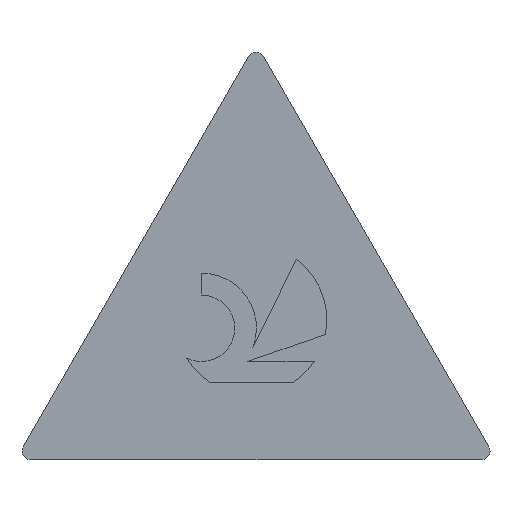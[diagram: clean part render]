
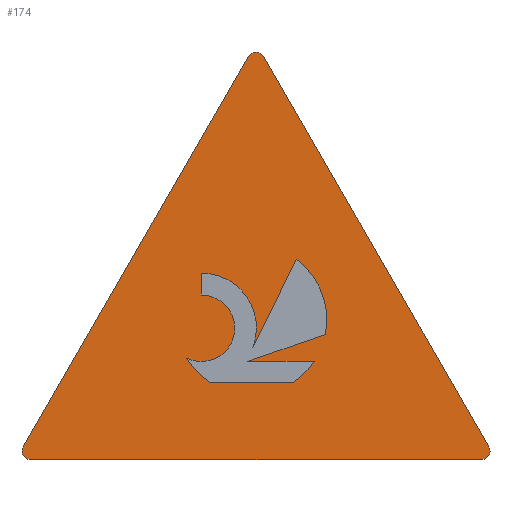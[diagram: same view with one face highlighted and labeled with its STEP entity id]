
A CAD part, top view. The second image highlights one B-rep face of the part: STEP entity #174.
In plain terms, the highlighted planar face has unit normal (0, 0, 1).
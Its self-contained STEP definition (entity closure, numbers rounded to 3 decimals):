
#146=EDGE_CURVE('',#218,#154,#387,.T.);
#154=VERTEX_POINT('',#395);
#164=EDGE_CURVE('',#252,#206,#406,.T.);
#168=EDGE_CURVE('',#316,#338,#411,.T.);
#174=ADVANCED_FACE('',(#417,#418),#419,.T.);
#178=VERTEX_POINT('',#423);
#180=EDGE_CURVE('',#178,#312,#425,.T.);
#184=EDGE_CURVE('',#314,#274,#430,.T.);
#186=EDGE_CURVE('',#210,#222,#432,.T.);
#200=EDGE_CURVE('',#154,#346,#447,.T.);
#204=EDGE_CURVE('',#222,#304,#452,.T.);
#206=VERTEX_POINT('',#454);
#210=VERTEX_POINT('',#458);
#212=EDGE_CURVE('',#278,#314,#460,.T.);
#216=EDGE_CURVE('',#274,#178,#465,.T.);
#218=VERTEX_POINT('',#467);
#222=VERTEX_POINT('',#471);
#228=EDGE_CURVE('',#206,#278,#477,.T.);
#236=EDGE_CURVE('',#338,#218,#488,.T.);
#252=VERTEX_POINT('',#505);
#274=VERTEX_POINT('',#528);
#278=VERTEX_POINT('',#532);
#282=EDGE_CURVE('',#312,#210,#537,.T.);
#288=EDGE_CURVE('',#304,#302,#544,.T.);
#298=VERTEX_POINT('',#555);
#302=VERTEX_POINT('',#559);
#304=VERTEX_POINT('',#561);
#306=EDGE_CURVE('',#346,#298,#563,.T.);
#312=VERTEX_POINT('',#569);
#314=VERTEX_POINT('',#571);
#316=VERTEX_POINT('',#573);
#318=EDGE_CURVE('',#298,#316,#575,.T.);
#326=EDGE_CURVE('',#302,#252,#583,.T.);
#338=VERTEX_POINT('',#597);
#346=VERTEX_POINT('',#607);
#387=LINE('',#648,#649);
#395=CARTESIAN_POINT('',(10.652,0.0,0.0));
#406=LINE('',#675,#676);
#411=LINE('',#682,#683);
#417=FACE_BOUND('',#693,.T.);
#418=FACE_OUTER_BOUND('',#694,.T.);
#419=PLANE('',#695);
#423=CARTESIAN_POINT('',(6.336,1.76,0.0));
#425=LINE('',#704,#705);
#430=LINE('',#711,#712);
#432=CIRCLE('',#715,0.761);
#447=CIRCLE('',#738,0.2);
#452=CIRCLE('',#744,0.761);
#454=CARTESIAN_POINT('',(6.422,4.59,0.0));
#458=CARTESIAN_POINT('',(3.912,2.329,0.0));
#460=LINE('',#755,#756);
#465=CIRCLE('',#762,1.724);
#467=CARTESIAN_POINT('',(0.346,0.0,0.0));
#471=CARTESIAN_POINT('',(4.593,3.69,0.0));
#477=CIRCLE('',#778,1.724);
#488=CIRCLE('',#790,0.2);
#505=CARTESIAN_POINT('',(5.426,2.568,0.0));
#528=CARTESIAN_POINT('',(6.831,2.25,0.0));
#532=CARTESIAN_POINT('',(7.087,2.868,0.0));
#537=CIRCLE('',#857,1.724);
#544=LINE('',#865,#866);
#555=CARTESIAN_POINT('',(5.672,9.225,0.0));
#559=CARTESIAN_POINT('',(4.247,4.27,0.0));
#561=CARTESIAN_POINT('',(4.247,3.77,0.0));
#563=LINE('',#891,#892);
#569=CARTESIAN_POINT('',(4.457,1.76,0.0));
#571=CARTESIAN_POINT('',(5.309,2.25,0.0));
#573=CARTESIAN_POINT('',(5.326,9.225,0.0));
#575=CIRCLE('',#907,0.2);
#583=CIRCLE('',#920,1.252);
#597=CARTESIAN_POINT('',(0.173,0.3,0.0));
#607=CARTESIAN_POINT('',(10.825,0.3,0.0));
#648=CARTESIAN_POINT('',(0.346,0.0,0.0));
#649=VECTOR('',#981,1.0);
#675=CARTESIAN_POINT('',(6.051,3.838,0.0));
#676=VECTOR('',#992,1.0);
#682=CARTESIAN_POINT('',(5.326,9.225,0.0));
#683=VECTOR('',#1000,1.0);
#693=EDGE_LOOP('',(#1004,#1005,#1006,#1007,#1008,#1009,#1010,#1011,#1012,#1013,#1014));
#694=EDGE_LOOP('',(#1015,#1016,#1017,#1018,#1019,#1020));
#695=AXIS2_PLACEMENT_3D('',#1021,#1022,#1023);
#704=CARTESIAN_POINT('',(4.978,1.76,0.0));
#705=VECTOR('',#1025,1.0);
#711=CARTESIAN_POINT('',(6.165,2.25,0.0));
#712=VECTOR('',#1034,1.0);
#715=AXIS2_PLACEMENT_3D('',#1035,#1036,#1037);
#738=AXIS2_PLACEMENT_3D('',#1052,#1053,#1054);
#744=AXIS2_PLACEMENT_3D('',#1063,#1064,#1065);
#755=CARTESIAN_POINT('',(5.537,2.33,0.0));
#756=VECTOR('',#1067,1.0);
#762=AXIS2_PLACEMENT_3D('',#1076,#1077,#1078);
#778=AXIS2_PLACEMENT_3D('',#1082,#1083,#1084);
#790=AXIS2_PLACEMENT_3D('',#1115,#1116,#1117);
#857=AXIS2_PLACEMENT_3D('',#1157,#1158,#1159);
#865=CARTESIAN_POINT('',(4.247,3.723,0.0));
#866=VECTOR('',#1168,1.0);
#891=CARTESIAN_POINT('',(10.825,0.3,0.0));
#892=VECTOR('',#1182,1.0);
#907=AXIS2_PLACEMENT_3D('',#1184,#1185,#1186);
#920=AXIS2_PLACEMENT_3D('',#1189,#1190,#1191);
#981=DIRECTION('',(1.0,0.0,0.0));
#992=DIRECTION('',(0.442,0.897,-0.0));
#1000=DIRECTION('',(-0.5,-0.866,0.0));
#1004=ORIENTED_EDGE('',*,*,#288,.T.);
#1005=ORIENTED_EDGE('',*,*,#326,.T.);
#1006=ORIENTED_EDGE('',*,*,#164,.T.);
#1007=ORIENTED_EDGE('',*,*,#228,.T.);
#1008=ORIENTED_EDGE('',*,*,#212,.T.);
#1009=ORIENTED_EDGE('',*,*,#184,.T.);
#1010=ORIENTED_EDGE('',*,*,#216,.T.);
#1011=ORIENTED_EDGE('',*,*,#180,.T.);
#1012=ORIENTED_EDGE('',*,*,#282,.T.);
#1013=ORIENTED_EDGE('',*,*,#186,.T.);
#1014=ORIENTED_EDGE('',*,*,#204,.T.);
#1015=ORIENTED_EDGE('',*,*,#146,.T.);
#1016=ORIENTED_EDGE('',*,*,#200,.T.);
#1017=ORIENTED_EDGE('',*,*,#306,.T.);
#1018=ORIENTED_EDGE('',*,*,#318,.T.);
#1019=ORIENTED_EDGE('',*,*,#168,.T.);
#1020=ORIENTED_EDGE('',*,*,#236,.T.);
#1021=CARTESIAN_POINT('',(5.499,3.175,0.0));
#1022=DIRECTION('',(0.0,0.0,1.0));
#1023=DIRECTION('',(1.0,0.0,0.0));
#1025=DIRECTION('',(-1.0,0.0,0.0));
#1034=DIRECTION('',(1.0,0.0,0.0));
#1035=CARTESIAN_POINT('',(4.252,3.009,0.0));
#1036=DIRECTION('',(0.0,0.0,1.0));
#1037=DIRECTION('',(-0.447,-0.894,0.0));
#1052=CARTESIAN_POINT('',(10.652,0.2,0.0));
#1053=DIRECTION('',(0.0,0.0,1.0));
#1054=DIRECTION('',(0.,-1.0,0.0));
#1063=CARTESIAN_POINT('',(4.252,3.009,0.0));
#1064=DIRECTION('',(0.0,0.0,1.0));
#1065=DIRECTION('',(-0.447,-0.894,0.0));
#1067=DIRECTION('',(-0.945,-0.328,0.0));
#1076=CARTESIAN_POINT('',(5.396,3.205,0.0));
#1077=DIRECTION('',(0.0,-0.0,-1.0));
#1078=DIRECTION('',(0.545,-0.838,0.0));
#1082=CARTESIAN_POINT('',(5.396,3.205,0.0));
#1083=DIRECTION('',(0.0,-0.0,-1.0));
#1084=DIRECTION('',(0.981,-0.196,0.0));
#1115=CARTESIAN_POINT('',(0.346,0.2,0.0));
#1116=DIRECTION('',(0.0,0.0,1.0));
#1117=DIRECTION('',(-0.866,0.5,0.0));
#1157=CARTESIAN_POINT('',(5.396,3.205,0.0));
#1158=DIRECTION('',(-0.0,0.0,-1.0));
#1159=DIRECTION('',(-0.861,-0.508,0.0));
#1168=DIRECTION('',(0.0,1.0,0.0));
#1182=DIRECTION('',(-0.5,0.866,0.0));
#1184=CARTESIAN_POINT('',(5.499,9.125,0.0));
#1185=DIRECTION('',(0.0,-0.0,1.0));
#1186=DIRECTION('',(0.866,0.5,0.0));
#1189=CARTESIAN_POINT('',(4.257,3.018,0.0));
#1190=DIRECTION('',(0.0,-0.0,-1.0));
#1191=DIRECTION('',(0.933,-0.359,0.0));
